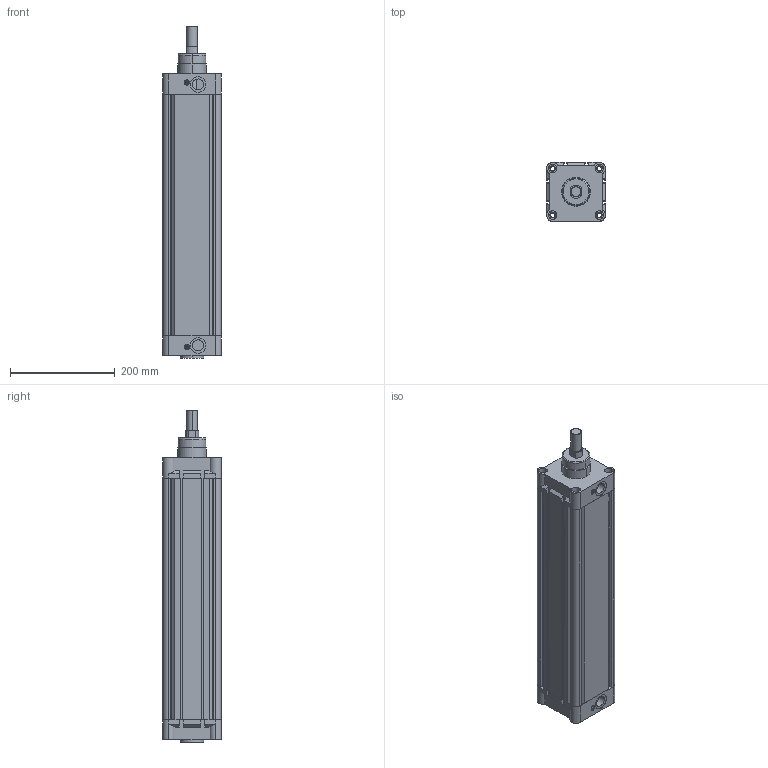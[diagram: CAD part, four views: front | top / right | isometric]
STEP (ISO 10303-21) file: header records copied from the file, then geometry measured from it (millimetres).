
FILE_DESCRIPTION (( 'STEP AP203' ), '1' );
FILE_NAME ('DNCAT-S-100X400CYLINDER.STEP', '2016-12-21T09:06:49', ( 'user' ), ( '' ), 'SwSTEP 2.0', 'SolidWorks 2013', '' );
FILE_SCHEMA (( 'CONFIG_CONTROL_DESIGN' ));
Length unit declared in the file: millimetre
Products named in the file (5): DNCAT-S 100 烰 KAPAK ; DNCAT-S 100x400 BORU; DNCAT-S 100x400 Piston Mili; DNCAT-S-100X400CYLINDER; DNCAT-S 100 ARKA KAPAK  
Assembly tree (4 placements, depth 2):
  DNCAT-S-100X400CYLINDER
    DNCAT-S 100 ARKA KAPAK  
    DNCAT-S 100 烰 KAPAK 
    DNCAT-S 100x400 BORU
    DNCAT-S 100x400 Piston Mili
Bounding box: 112 x 112 x 633.65 mm (x, y, z)
Volume: 3305999.9 mm3; surface area: 637504.5 mm2
Topology: 4 solids, 4 shells, 307 faces, 803 edges, 528 vertices
Faces by surface type: plane 192, cylinder 101, cone 10, torus 4
Entity records: 10072 total; most frequent: CARTESIAN_POINT 1766, DIRECTION 1625, ORIENTED_EDGE 1606, EDGE_CURVE 803, LINE 571, VECTOR 571, VERTEX_POINT 528, AXIS2_PLACEMENT_3D 527
